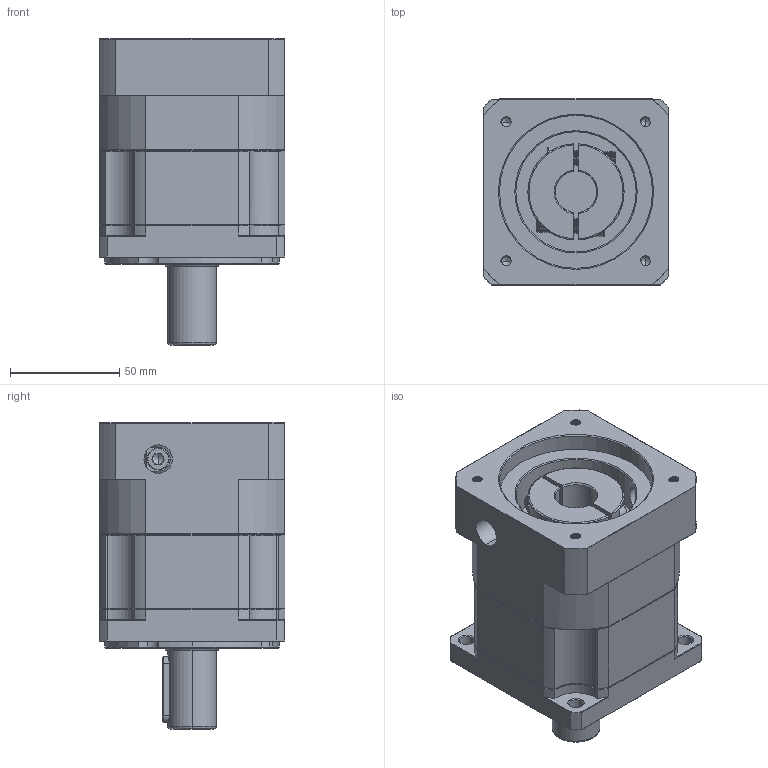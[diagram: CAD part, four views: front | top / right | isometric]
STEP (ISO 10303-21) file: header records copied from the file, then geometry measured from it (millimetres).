
FILE_DESCRIPTION (( 'STEP AP214' ), '1' );
FILE_NAME ('ZB90-D22-L1-19-70-90-M5.STEP', '2022-05-02T15:42:04', ( '' ), ( 'Microsoft' ), 'SwSTEP 2.0', 'SolidWorks 2016', '' );
FILE_SCHEMA (( 'AUTOMOTIVE_DESIGN' ));
Length unit declared in the file: millimetre
Products named in the file (1): ZB90-D22-L1-19-70-90-M5
Bounding box: 85 x 85 x 140 mm (x, y, z)
Volume: 610736.3 mm3; surface area: 84564.4 mm2
Topology: 4 solids, 4 shells, 1911 faces, 5026 edges, 3192 vertices
Faces by surface type: plane 876, cylinder 390, cone 319, bspline 314, torus 12
Entity records: 103977 total; most frequent: CARTESIAN_POINT 38600, ORIENTED_EDGE 10008, DIRECTION 8025, EDGE_CURVE 5004, VERTEX_POINT 3192, LINE 3083, VECTOR 3083, AXIS2_PLACEMENT_3D 2471
